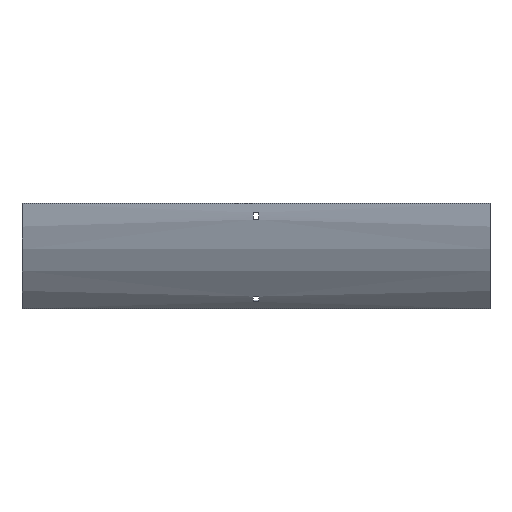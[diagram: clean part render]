
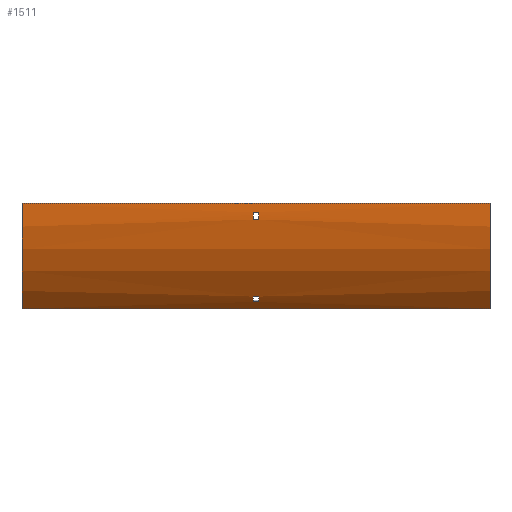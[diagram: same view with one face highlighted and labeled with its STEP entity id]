
A CAD part, front view. The second image highlights one B-rep face of the part: STEP entity #1511.
In plain terms, the highlighted cylindrical face has radius 192.5 mm (diameter 385 mm), a partial arc.
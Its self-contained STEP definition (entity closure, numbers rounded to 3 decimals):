
#34 = CIRCLE ( 'NONE', #930, 192.5 ) ;
#64 = DIRECTION ( 'NONE',  ( -1., 0., 0. ) ) ;
#67 = CARTESIAN_POINT ( 'NONE',  ( 302., 100., 0. ) ) ;
#89 = EDGE_LOOP ( 'NONE', ( #1484, #770, #1683, #354 ) ) ;
#103 = AXIS2_PLACEMENT_3D ( 'NONE', #1378, #613, #217 ) ;
#127 = AXIS2_PLACEMENT_3D ( 'NONE', #1527, #1650, #471 ) ;
#175 = VERTEX_POINT ( 'NONE', #1095 ) ;
#182 = LINE ( 'NONE', #1639, #1031 ) ;
#206 = CARTESIAN_POINT ( 'NONE',  ( 302., -44.339, -127.368 ) ) ;
#216 = CARTESIAN_POINT ( 'NONE',  ( 3.25, -92.126, -12. ) ) ;
#217 = DIRECTION ( 'NONE',  ( 0., 0., -1. ) ) ;
#237 = CARTESIAN_POINT ( 'NONE',  ( -3.25, -91.351, -21. ) ) ;
#255 = ORIENTED_EDGE ( 'NONE', *, *, #1444, .T. ) ;
#257 = CIRCLE ( 'NONE', #1595, 192.5 ) ;
#306 = DIRECTION ( 'NONE',  ( -1., 0., 0. ) ) ;
#332 = DIRECTION ( 'NONE',  ( 1., 0., 0. ) ) ;
#354 = ORIENTED_EDGE ( 'NONE', *, *, #438, .T. ) ;
#366 = CARTESIAN_POINT ( 'NONE',  ( 302., 100., 0. ) ) ;
#378 = DIRECTION ( 'NONE',  ( 1., 0., 0. ) ) ;
#386 = VERTEX_POINT ( 'NONE', #1435 ) ;
#436 = LINE ( 'NONE', #206, #1362 ) ;
#438 = EDGE_CURVE ( 'NONE', #939, #1541, #824, .T. ) ;
#439 = CYLINDRICAL_SURFACE ( 'NONE', #1298, 192.5 ) ;
#447 = DIRECTION ( 'NONE',  ( 0., 0., 1. ) ) ;
#457 = EDGE_CURVE ( 'NONE', #565, #939, #1658, .T. ) ;
#459 = EDGE_LOOP ( 'NONE', ( #1256, #1473, #846, #1226 ) ) ;
#468 = CIRCLE ( 'NONE', #1311, 192.5 ) ;
#471 = DIRECTION ( 'NONE',  ( 0., 0., 1. ) ) ;
#484 = DIRECTION ( 'NONE',  ( -1., 0., 0. ) ) ;
#528 = VECTOR ( 'NONE', #1329, 1000. ) ;
#539 = VERTEX_POINT ( 'NONE', #237 ) ;
#565 = VERTEX_POINT ( 'NONE', #1366 ) ;
#592 = FACE_BOUND ( 'NONE', #459, .T. ) ;
#594 = DIRECTION ( 'NONE',  ( 1., 0., 0. ) ) ;
#607 = LINE ( 'NONE', #1662, #940 ) ;
#613 = DIRECTION ( 'NONE',  ( 1., 0., 0. ) ) ;
#617 = EDGE_CURVE ( 'NONE', #175, #1588, #34, .T. ) ;
#625 = ORIENTED_EDGE ( 'NONE', *, *, #1327, .F. ) ;
#647 = EDGE_CURVE ( 'NONE', #1588, #1672, #436, .T. ) ;
#674 = EDGE_CURVE ( 'NONE', #539, #565, #468, .T. ) ;
#678 = VECTOR ( 'NONE', #378, 1000. ) ;
#770 = ORIENTED_EDGE ( 'NONE', *, *, #674, .T. ) ;
#789 = CARTESIAN_POINT ( 'NONE',  ( -3.25, -44.339, -127.368 ) ) ;
#813 = VERTEX_POINT ( 'NONE', #1238 ) ;
#824 = CIRCLE ( 'NONE', #103, 192.5 ) ;
#832 = DIRECTION ( 'NONE',  ( 0., 0., -1. ) ) ;
#846 = ORIENTED_EDGE ( 'NONE', *, *, #1266, .F. ) ;
#847 = VERTEX_POINT ( 'NONE', #1027 ) ;
#869 = ORIENTED_EDGE ( 'NONE', *, *, #1165, .F. ) ;
#892 = AXIS2_PLACEMENT_3D ( 'NONE', #1505, #332, #832 ) ;
#893 = CARTESIAN_POINT ( 'NONE',  ( 302., -92.126, -12. ) ) ;
#918 = CIRCLE ( 'NONE', #892, 192.5 ) ;
#930 = AXIS2_PLACEMENT_3D ( 'NONE', #1347, #1479, #1139 ) ;
#934 = CARTESIAN_POINT ( 'NONE',  ( 302., -92.5, 0. ) ) ;
#939 = VERTEX_POINT ( 'NONE', #216 ) ;
#940 = VECTOR ( 'NONE', #484, 1000. ) ;
#1003 = CARTESIAN_POINT ( 'NONE',  ( -3.25, 100., 0. ) ) ;
#1012 = FACE_OUTER_BOUND ( 'NONE', #1394, .T. ) ;
#1027 = CARTESIAN_POINT ( 'NONE',  ( 302., -36.118, -136.118 ) ) ;
#1031 = VECTOR ( 'NONE', #1494, 1000. ) ;
#1087 = CARTESIAN_POINT ( 'NONE',  ( 302., -50.155, -120.456 ) ) ;
#1092 = CARTESIAN_POINT ( 'NONE',  ( 302., -36.118, -136.118 ) ) ;
#1095 = CARTESIAN_POINT ( 'NONE',  ( -3.25, -50.155, -120.456 ) ) ;
#1112 = CARTESIAN_POINT ( 'NONE',  ( -302., -92.5, 0. ) ) ;
#1139 = DIRECTION ( 'NONE',  ( 0., 0., -1. ) ) ;
#1165 = EDGE_CURVE ( 'NONE', #1582, #847, #257, .T. ) ;
#1220 = EDGE_CURVE ( 'NONE', #813, #175, #1480, .T. ) ;
#1226 = ORIENTED_EDGE ( 'NONE', *, *, #647, .F. ) ;
#1238 = CARTESIAN_POINT ( 'NONE',  ( 3.25, -50.155, -120.456 ) ) ;
#1251 = DIRECTION ( 'NONE',  ( 1., 0., 0. ) ) ;
#1256 = ORIENTED_EDGE ( 'NONE', *, *, #617, .F. ) ;
#1266 = EDGE_CURVE ( 'NONE', #1672, #813, #1625, .T. ) ;
#1277 = EDGE_CURVE ( 'NONE', #1582, #1288, #182, .T. ) ;
#1288 = VERTEX_POINT ( 'NONE', #1112 ) ;
#1298 = AXIS2_PLACEMENT_3D ( 'NONE', #67, #306, #447 ) ;
#1302 = EDGE_CURVE ( 'NONE', #1541, #539, #607, .T. ) ;
#1311 = AXIS2_PLACEMENT_3D ( 'NONE', #1003, #64, #1520 ) ;
#1317 = CARTESIAN_POINT ( 'NONE',  ( 3.25, -44.339, -127.368 ) ) ;
#1327 = EDGE_CURVE ( 'NONE', #847, #386, #1447, .T. ) ;
#1329 = DIRECTION ( 'NONE',  ( -1., 0., 0. ) ) ;
#1347 = CARTESIAN_POINT ( 'NONE',  ( -3.25, 100., 0. ) ) ;
#1362 = VECTOR ( 'NONE', #594, 1000. ) ;
#1366 = CARTESIAN_POINT ( 'NONE',  ( -3.25, -92.126, -12. ) ) ;
#1378 = CARTESIAN_POINT ( 'NONE',  ( 3.25, 100., 0. ) ) ;
#1394 = EDGE_LOOP ( 'NONE', ( #255, #625, #869, #1452 ) ) ;
#1430 = VECTOR ( 'NONE', #1602, 1000. ) ;
#1435 = CARTESIAN_POINT ( 'NONE',  ( -302., -36.118, -136.118 ) ) ;
#1444 = EDGE_CURVE ( 'NONE', #1288, #386, #918, .T. ) ;
#1447 = LINE ( 'NONE', #1092, #528 ) ;
#1452 = ORIENTED_EDGE ( 'NONE', *, *, #1277, .T. ) ;
#1473 = ORIENTED_EDGE ( 'NONE', *, *, #1220, .F. ) ;
#1479 = DIRECTION ( 'NONE',  ( 1., 0., 0. ) ) ;
#1480 = LINE ( 'NONE', #1087, #1430 ) ;
#1484 = ORIENTED_EDGE ( 'NONE', *, *, #1302, .T. ) ;
#1494 = DIRECTION ( 'NONE',  ( -1., 0., 0. ) ) ;
#1505 = CARTESIAN_POINT ( 'NONE',  ( -302., 100., 0. ) ) ;
#1511 = ADVANCED_FACE ( 'NONE', ( #1012, #1528, #592 ), #439, .T. ) ;
#1520 = DIRECTION ( 'NONE',  ( 0., 0., 1. ) ) ;
#1523 = DIRECTION ( 'NONE',  ( 0., 0., -1. ) ) ;
#1527 = CARTESIAN_POINT ( 'NONE',  ( 3.25, 100., 0. ) ) ;
#1528 = FACE_BOUND ( 'NONE', #89, .T. ) ;
#1541 = VERTEX_POINT ( 'NONE', #1611 ) ;
#1582 = VERTEX_POINT ( 'NONE', #934 ) ;
#1588 = VERTEX_POINT ( 'NONE', #789 ) ;
#1595 = AXIS2_PLACEMENT_3D ( 'NONE', #366, #1251, #1523 ) ;
#1602 = DIRECTION ( 'NONE',  ( -1., 0., 0. ) ) ;
#1611 = CARTESIAN_POINT ( 'NONE',  ( 3.25, -91.351, -21. ) ) ;
#1625 = CIRCLE ( 'NONE', #127, 192.5 ) ;
#1639 = CARTESIAN_POINT ( 'NONE',  ( 302., -92.5, 0. ) ) ;
#1650 = DIRECTION ( 'NONE',  ( -1., 0., 0. ) ) ;
#1658 = LINE ( 'NONE', #893, #678 ) ;
#1662 = CARTESIAN_POINT ( 'NONE',  ( 302., -91.351, -21. ) ) ;
#1672 = VERTEX_POINT ( 'NONE', #1317 ) ;
#1683 = ORIENTED_EDGE ( 'NONE', *, *, #457, .T. ) ;
